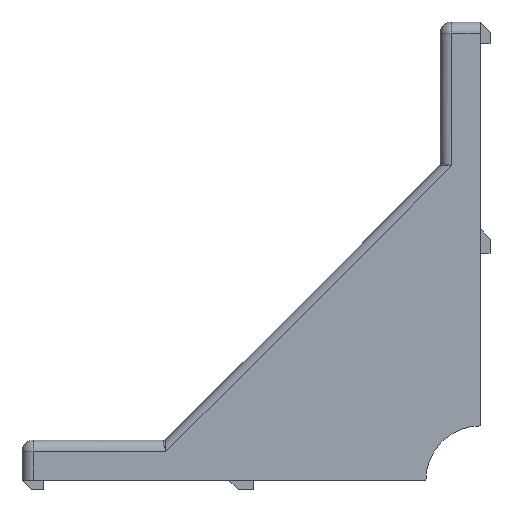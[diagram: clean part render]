
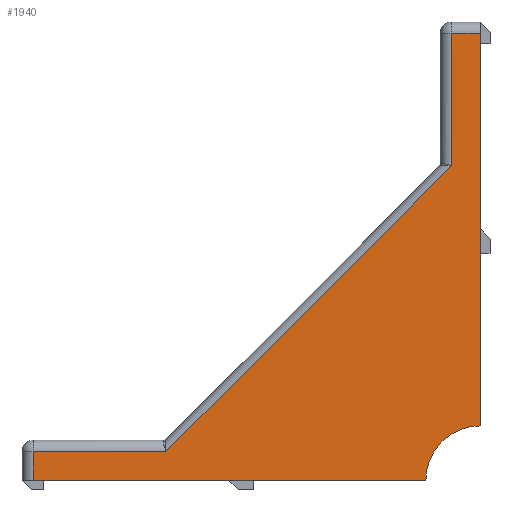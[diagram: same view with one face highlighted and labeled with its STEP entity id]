
A CAD part, left-side view. The second image highlights one B-rep face of the part: STEP entity #1940.
In plain terms, the highlighted planar face has unit normal (-1, 0, 0).
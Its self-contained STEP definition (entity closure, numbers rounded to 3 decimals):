
#95 = ORIENTED_EDGE ( 'NONE', *, *, #1059, .T. ) ;
#96 = ORIENTED_EDGE ( 'NONE', *, *, #1844, .T. ) ;
#97 = ORIENTED_EDGE ( 'NONE', *, *, #1845, .T. ) ;
#98 = ORIENTED_EDGE ( 'NONE', *, *, #1828, .F. ) ;
#99 = ORIENTED_EDGE ( 'NONE', *, *, #1846, .T. ) ;
#100 = ORIENTED_EDGE ( 'NONE', *, *, #1782, .F. ) ;
#101 = ORIENTED_EDGE ( 'NONE', *, *, #1847, .T. ) ;
#102 = ORIENTED_EDGE ( 'NONE', *, *, #1848, .T. ) ;
#400 = AXIS2_PLACEMENT_3D ( 'NONE', #4086, #4085, #4084 ) ;
#443 = CARTESIAN_POINT ( 'NONE',  ( -17.5, 78., 0. ) ) ;
#491 = CARTESIAN_POINT ( 'NONE',  ( -17.5, 78., 5. ) ) ;
#492 = CARTESIAN_POINT ( 'NONE',  ( -17.5, 9.5, 0. ) ) ;
#516 = CARTESIAN_POINT ( 'NONE',  ( -17.5, 5., 78. ) ) ;
#638 = CARTESIAN_POINT ( 'NONE',  ( -17.5, 0., 9.5 ) ) ;
#641 = CARTESIAN_POINT ( 'NONE',  ( -17.5, 0., 78. ) ) ;
#672 = CARTESIAN_POINT ( 'NONE',  ( -17.5, 5., 54.879 ) ) ;
#680 = CARTESIAN_POINT ( 'NONE',  ( -17.5, 54.879, 5. ) ) ;
#823 = DIRECTION ( 'NONE',  ( 0., 0., 1. ) ) ;
#824 = DIRECTION ( 'NONE',  ( -1., 0., 0. ) ) ;
#826 = PLANE ( 'NONE',  #2045 ) ;
#841 = CARTESIAN_POINT ( 'NONE',  ( -17.5, 0., 0. ) ) ;
#1059 = EDGE_CURVE ( 'NONE', #2878, #2873, #2740, .T. ) ;
#1398 = FACE_OUTER_BOUND ( 'NONE', #3658, .T. ) ;
#1782 = EDGE_CURVE ( 'NONE', #2895, #2896, #2586, .T. ) ;
#1828 = EDGE_CURVE ( 'NONE', #3552, #3584, #2507, .T. ) ;
#1844 = EDGE_CURVE ( 'NONE', #2873, #3553, #2478, .T. ) ;
#1845 = EDGE_CURVE ( 'NONE', #3553, #3584, #2476, .T. ) ;
#1846 = EDGE_CURVE ( 'NONE', #3552, #2896, #2474, .T. ) ;
#1847 = EDGE_CURVE ( 'NONE', #2895, #3535, #2472, .T. ) ;
#1848 = EDGE_CURVE ( 'NONE', #3535, #2878, #2471, .T. ) ;
#1940 = ADVANCED_FACE ( 'NONE', ( #1398 ), #826, .T. ) ;
#2045 = AXIS2_PLACEMENT_3D ( 'NONE', #841, #824, #823 ) ;
#2468 = VECTOR ( 'NONE', #4082, 1000. ) ;
#2470 = VECTOR ( 'NONE', #4098, 1000. ) ;
#2471 = LINE ( 'NONE', #4083, #2468 ) ;
#2472 = LINE ( 'NONE', #4099, #2470 ) ;
#2473 = VECTOR ( 'NONE', #4091, 1000. ) ;
#2474 = CIRCLE ( 'NONE', #400, 9.5 ) ;
#2475 = VECTOR ( 'NONE', #4093, 1000. ) ;
#2476 = LINE ( 'NONE', #4092, #2473 ) ;
#2478 = LINE ( 'NONE', #4094, #2475 ) ;
#2504 = VECTOR ( 'NONE', #4136, 1000. ) ;
#2507 = LINE ( 'NONE', #4138, #2504 ) ;
#2583 = VECTOR ( 'NONE', #3101, 1000. ) ;
#2586 = LINE ( 'NONE', #3104, #2583 ) ;
#2733 = VECTOR ( 'NONE', #3409, 1000. ) ;
#2740 = LINE ( 'NONE', #3416, #2733 ) ;
#2873 = VERTEX_POINT ( 'NONE', #680 ) ;
#2878 = VERTEX_POINT ( 'NONE', #672 ) ;
#2895 = VERTEX_POINT ( 'NONE', #641 ) ;
#2896 = VERTEX_POINT ( 'NONE', #638 ) ;
#3101 = DIRECTION ( 'NONE',  ( 0., 0., -1. ) ) ;
#3104 = CARTESIAN_POINT ( 'NONE',  ( -17.5, 0., 0. ) ) ;
#3409 = DIRECTION ( 'NONE',  ( 0., 0.707, -0.707 ) ) ;
#3416 = CARTESIAN_POINT ( 'NONE',  ( -17.5, 29.939, 29.939 ) ) ;
#3535 = VERTEX_POINT ( 'NONE', #516 ) ;
#3552 = VERTEX_POINT ( 'NONE', #492 ) ;
#3553 = VERTEX_POINT ( 'NONE', #491 ) ;
#3584 = VERTEX_POINT ( 'NONE', #443 ) ;
#3658 = EDGE_LOOP ( 'NONE', ( #95, #96, #97, #98, #99, #100, #101, #102 ) ) ;
#4082 = DIRECTION ( 'NONE',  ( 0., 0., -1. ) ) ;
#4083 = CARTESIAN_POINT ( 'NONE',  ( -17.5, 5., 55. ) ) ;
#4084 = DIRECTION ( 'NONE',  ( 0., 0., 1. ) ) ;
#4085 = DIRECTION ( 'NONE',  ( 1., 0., 0. ) ) ;
#4086 = CARTESIAN_POINT ( 'NONE',  ( -17.5, 0., 0. ) ) ;
#4091 = DIRECTION ( 'NONE',  ( 0., 0., -1. ) ) ;
#4092 = CARTESIAN_POINT ( 'NONE',  ( -17.5, 78., 0. ) ) ;
#4093 = DIRECTION ( 'NONE',  ( 0., 1., 0. ) ) ;
#4094 = CARTESIAN_POINT ( 'NONE',  ( -17.5, 80., 5. ) ) ;
#4098 = DIRECTION ( 'NONE',  ( 0., 1., 0. ) ) ;
#4099 = CARTESIAN_POINT ( 'NONE',  ( -17.5, 7., 78. ) ) ;
#4136 = DIRECTION ( 'NONE',  ( 0., 1., 0. ) ) ;
#4138 = CARTESIAN_POINT ( 'NONE',  ( -17.5, 80., 0. ) ) ;
